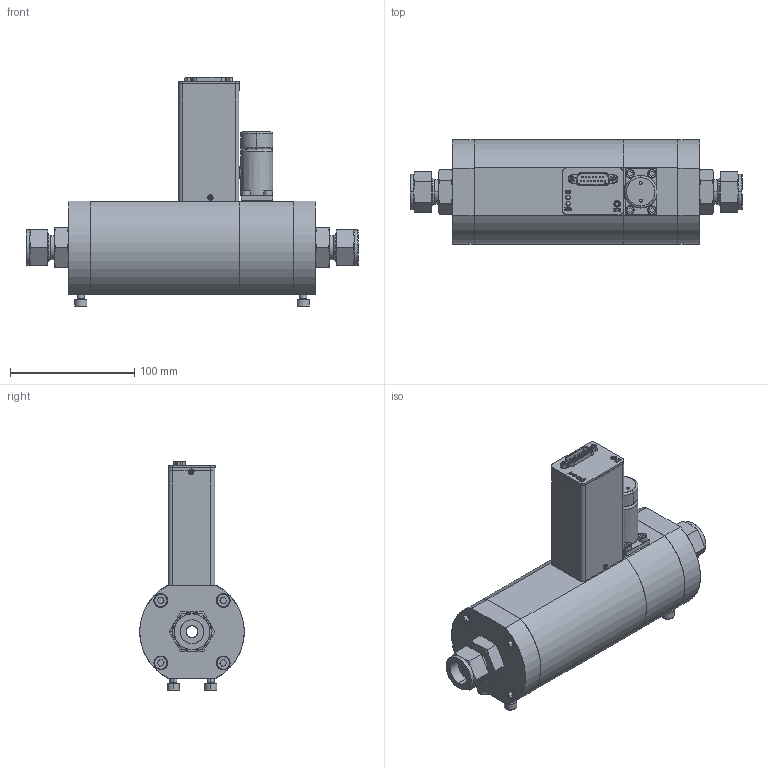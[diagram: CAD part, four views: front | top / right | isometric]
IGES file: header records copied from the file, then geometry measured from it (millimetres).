
Start section: SolidWorks IGES file using analytic representation for surfaces
Global section: file name: G:\Engineering\CAD MODELS FOR SALES\CAD MODEL STORAGE\SLA\SLA5853\IGES\SLA5853-S-2E-2-L-REVB.IGS; native system: SolidWorks 2020; preprocessor: SolidWorks 2020; author: SThen; date: 230309.091847; units: inch
Bounding box: 266.87 x 84.03 x 184.34 mm (x, y, z)
Surface area: 196514.6 mm2 (no closed solid volume)
Topology: 0 solids, 0 shells, 1532 faces, 20686 edges, 20623 vertices
Faces by surface type: bspline 824, revolution 708
